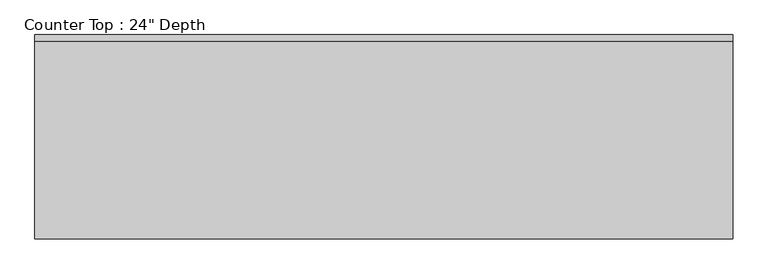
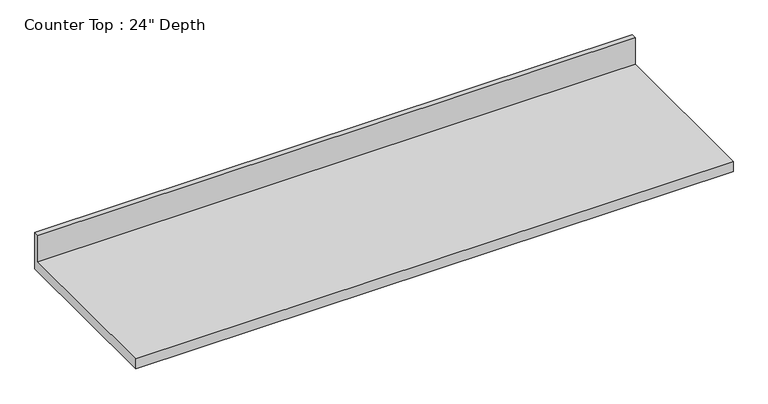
"""IFC4 building model written with IfcOpenShell, lengths in millimetres: furniture geometry."""

from ifc_helpers import new_model, si_unit, frame, origin, place, context, project, spatial, polyline, outline, extrude, source, transform, mapped, element, save


def furniture_b725675f(model_context):
    return source(origin(), model_context, "Body", "SweptSolid", [
        extrude(outline(polyline([(0.0, 1016.0), (0.0, 876.3), (-635.0, 876.3), (-635.0, 914.4), (-19.05, 914.4), (-19.05, 1016.0), (0.0, 1016.0)])), frame((-1200.4622951, 0.0, 0.0), z_axis=(1.0, 0.0, 0.0), x_axis=(0.0, 1.0, 0.0)), (0.0, 0.0, 1.0), 2168.525),
    ])


if __name__ == "__main__":
    model = new_model("IFC4")
    model_context = context("Model", 3, world=origin())
    ifc_project = project(units=[si_unit("LENGTHUNIT", "METRE", prefix="MILLI")], contexts=[model_context])
    site = spatial("IfcSite", under=ifc_project)
    building = spatial("IfcBuilding", under=site)
    placement = place(None, origin())
    furniture_shape = furniture_b725675f(model_context)
    element("IfcFurniture", 1, ObjectType="Counter Top : 24\" Depth", at=placement, inside=building, context=model_context, shape_type="MappedRepresentation", body=[
        mapped(furniture_shape, transform((0.0, 0.0, 0.0), x_axis=(1.0, 0.0, 0.0), y_axis=(0.0, 1.0, 0.0), z_axis=(0.0, 0.0, 1.0))),
    ])
    save(model, "model.ifc")
